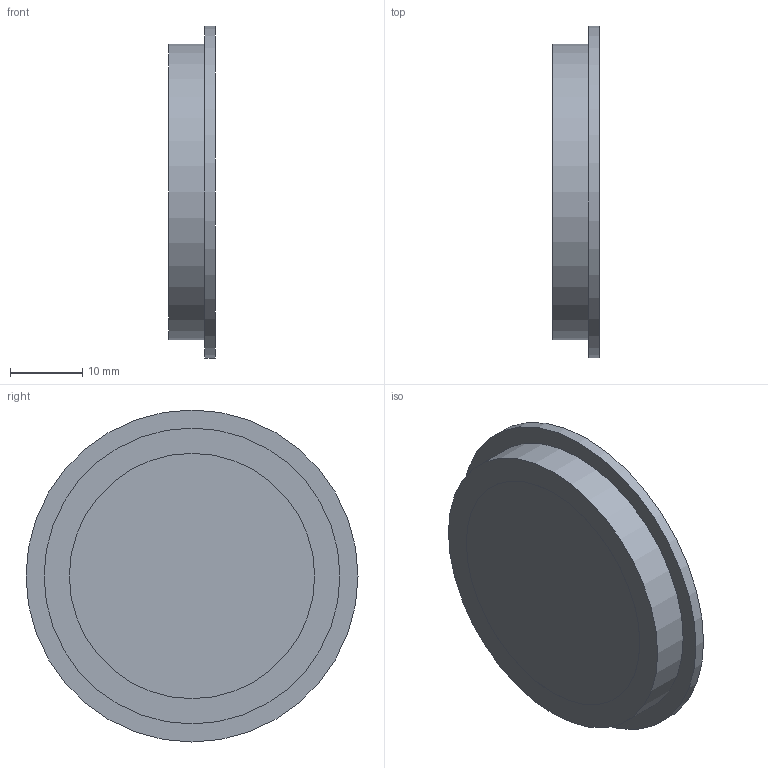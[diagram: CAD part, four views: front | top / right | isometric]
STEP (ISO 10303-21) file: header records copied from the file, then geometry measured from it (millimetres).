
FILE_DESCRIPTION( ( 'Unknown' ), '1' );
FILE_NAME( 'X:/SolidEdge/Models/Dokumentationen/Opto/Reflektoren/vereinfachte Modelle/Neutralformate/FTAR 038A000.stp', 'Unknown', ( 'Unknown' ), ( 'Unknown' ), 'PSStep 15.0.49', 'Unknown', ' ' );
FILE_SCHEMA( ( 'AUTOMOTIVE_DESIGN { 1 0 10303 214 1 1 1 1 }' ) );
Length unit declared in the file: millimetre
Products named in the file (1): 1
Bounding box: 6.5 x 46 x 46 mm (x, y, z)
Volume: 9081.6 mm3; surface area: 4185.5 mm2
Topology: 1 solids, 1 shells, 7 faces, 9 edges, 6 vertices
Faces by surface type: plane 4, cylinder 3
Full cylindrical faces by diameter (mm): 34 x1, 41 x1, 46 x1
Entity records: 206 total; most frequent: DIRECTION 28, CARTESIAN_POINT 20, AXIS2_PLACEMENT_3D 14, EDGE_LOOP 12, ORIENTED_EDGE 12, FACE_OUTER_BOUND 10, STYLED_ITEM 7, PRESENTATION_STYLE_ASSIGNMENT 7
